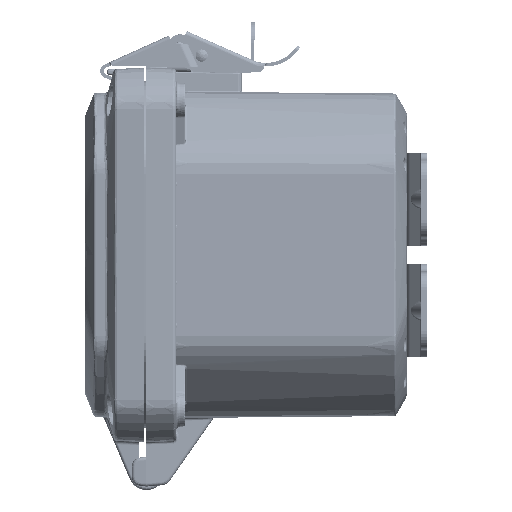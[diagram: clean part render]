
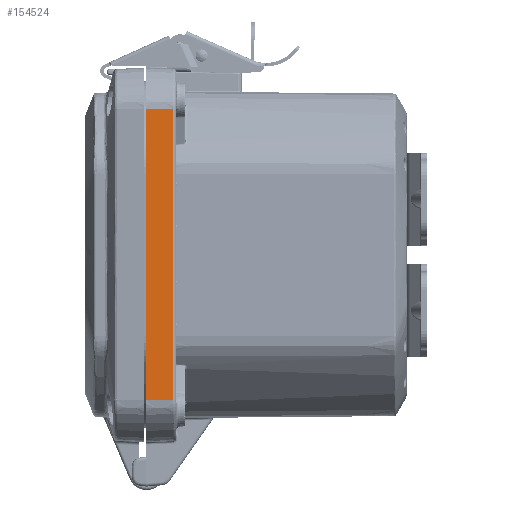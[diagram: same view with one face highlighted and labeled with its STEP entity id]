
A CAD part, left-side view. The second image highlights one B-rep face of the part: STEP entity #154524.
In plain terms, the highlighted planar face has unit normal (-0.999, -0.035, 0).
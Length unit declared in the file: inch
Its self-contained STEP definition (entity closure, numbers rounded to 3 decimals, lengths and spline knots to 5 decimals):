
#1509 = CARTESIAN_POINT ( 'NONE',  ( -3.52, 0., 2.2 ) ) ;
#7099 = DIRECTION ( 'NONE',  ( 0.035, -0.999, 0. ) ) ;
#16334 = DIRECTION ( 'NONE',  ( -0.999, -0.035, 0. ) ) ;
#32795 = CARTESIAN_POINT ( 'NONE',  ( -3.52, 0., -1.95755 ) ) ;
#37661 = EDGE_CURVE ( 'NONE', #82115, #190693, #94024, .T. ) ;
#50738 = CARTESIAN_POINT ( 'NONE',  ( -3.52, 0., 2.2 ) ) ;
#70331 = LINE ( 'NONE', #1509, #128625 ) ;
#82115 = VERTEX_POINT ( 'NONE', #190737 ) ;
#83183 = CARTESIAN_POINT ( 'NONE',  ( -3.50772, -0.35174, 1.95755 ) ) ;
#93260 = VECTOR ( 'NONE', #7099, 39.37008 ) ;
#94024 = LINE ( 'NONE', #141774, #161261 ) ;
#95487 = ORIENTED_EDGE ( 'NONE', *, *, #144902, .F. ) ;
#95580 = LINE ( 'NONE', #107019, #93260 ) ;
#96748 = EDGE_LOOP ( 'NONE', ( #147131, #95487, #143761, #153266 ) ) ;
#100692 = PLANE ( 'NONE',  #121461 ) ;
#107019 = CARTESIAN_POINT ( 'NONE',  ( -3.52, 0., -1.95755 ) ) ;
#118387 = VERTEX_POINT ( 'NONE', #32795 ) ;
#120458 = CARTESIAN_POINT ( 'NONE',  ( -3.52, 0., 1.95755 ) ) ;
#121355 = DIRECTION ( 'NONE',  ( 0., 0., 1. ) ) ;
#121461 = AXIS2_PLACEMENT_3D ( 'NONE', #50738, #16334, #171668 ) ;
#126229 = DIRECTION ( 'NONE',  ( 0., 0., 1. ) ) ;
#128625 = VECTOR ( 'NONE', #121355, 39.37008 ) ;
#135583 = CARTESIAN_POINT ( 'NONE',  ( -3.52, 0., 1.95755 ) ) ;
#141774 = CARTESIAN_POINT ( 'NONE',  ( -3.50772, -0.35174, 1.95755 ) ) ;
#143761 = ORIENTED_EDGE ( 'NONE', *, *, #213188, .F. ) ;
#144902 = EDGE_CURVE ( 'NONE', #193117, #190693, #201128, .T. ) ;
#147131 = ORIENTED_EDGE ( 'NONE', *, *, #37661, .T. ) ;
#153266 = ORIENTED_EDGE ( 'NONE', *, *, #187038, .T. ) ;
#154524 = ADVANCED_FACE ( 'NONE', ( #169494 ), #100692, .T. ) ;
#161261 = VECTOR ( 'NONE', #126229, 39.37008 ) ;
#167820 = DIRECTION ( 'NONE',  ( 0.035, -0.999, 0. ) ) ;
#169494 = FACE_OUTER_BOUND ( 'NONE', #96748, .T. ) ;
#171668 = DIRECTION ( 'NONE',  ( 0.035, -0.999, 0. ) ) ;
#187038 = EDGE_CURVE ( 'NONE', #118387, #82115, #95580, .T. ) ;
#189228 = VECTOR ( 'NONE', #167820, 39.37008 ) ;
#190693 = VERTEX_POINT ( 'NONE', #83183 ) ;
#190737 = CARTESIAN_POINT ( 'NONE',  ( -3.50772, -0.35174, -1.95755 ) ) ;
#193117 = VERTEX_POINT ( 'NONE', #120458 ) ;
#201128 = LINE ( 'NONE', #135583, #189228 ) ;
#213188 = EDGE_CURVE ( 'NONE', #118387, #193117, #70331, .T. ) ;
